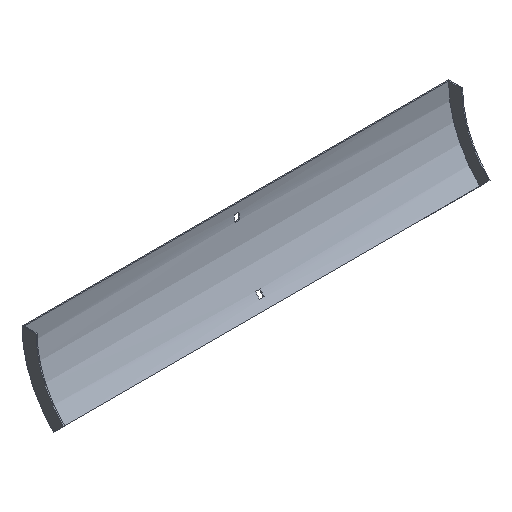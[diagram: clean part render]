
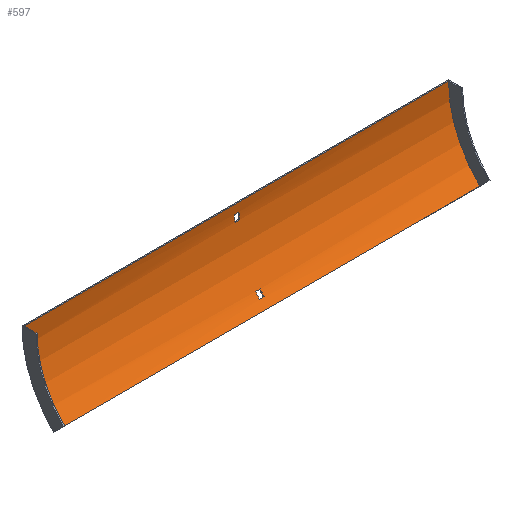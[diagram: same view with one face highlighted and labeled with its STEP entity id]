
A CAD part, isometric view. The second image highlights one B-rep face of the part: STEP entity #597.
In plain terms, the highlighted cylindrical face has radius 152 mm (diameter 304 mm), a partial arc.
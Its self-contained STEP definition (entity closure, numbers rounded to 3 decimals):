
#4 = DIRECTION ( 'NONE',  ( 0., 0., 1. ) ) ;
#9 = CARTESIAN_POINT ( 'NONE',  ( 303.5, -153.5, 0. ) ) ;
#10 = CARTESIAN_POINT ( 'NONE',  ( 3.25, -153.5, 0. ) ) ;
#11 = CIRCLE ( 'NONE', #357, 152. ) ;
#12 = ORIENTED_EDGE ( 'NONE', *, *, #260, .F. ) ;
#23 = CIRCLE ( 'NONE', #517, 152. ) ;
#29 = VERTEX_POINT ( 'NONE', #604 ) ;
#31 = VERTEX_POINT ( 'NONE', #314 ) ;
#32 = VECTOR ( 'NONE', #469, 1000. ) ;
#38 = CARTESIAN_POINT ( 'NONE',  ( 302., -1.5, 0. ) ) ;
#59 = ORIENTED_EDGE ( 'NONE', *, *, #194, .T. ) ;
#60 = DIRECTION ( 'NONE',  ( 0., 0., 1. ) ) ;
#61 = EDGE_CURVE ( 'NONE', #364, #243, #319, .T. ) ;
#66 = AXIS2_PLACEMENT_3D ( 'NONE', #10, #489, #197 ) ;
#69 = DIRECTION ( 'NONE',  ( 0., 0., 1. ) ) ;
#81 = ORIENTED_EDGE ( 'NONE', *, *, #151, .F. ) ;
#85 = CARTESIAN_POINT ( 'NONE',  ( -3.25, -2.958, -21. ) ) ;
#100 = DIRECTION ( 'NONE',  ( 1., 0., 0. ) ) ;
#104 = VECTOR ( 'NONE', #427, 1000. ) ;
#115 = ORIENTED_EDGE ( 'NONE', *, *, #480, .T. ) ;
#116 = VERTEX_POINT ( 'NONE', #516 ) ;
#120 = VERTEX_POINT ( 'NONE', #465 ) ;
#121 = VECTOR ( 'NONE', #458, 1000. ) ;
#127 = ORIENTED_EDGE ( 'NONE', *, *, #371, .F. ) ;
#135 = CARTESIAN_POINT ( 'NONE',  ( -302., -153.5, 0. ) ) ;
#141 = CARTESIAN_POINT ( 'NONE',  ( 303.5, -37.87, -98.659 ) ) ;
#144 = CARTESIAN_POINT ( 'NONE',  ( -3.25, -153.5, 0. ) ) ;
#151 = EDGE_CURVE ( 'NONE', #217, #347, #273, .T. ) ;
#157 = CARTESIAN_POINT ( 'NONE',  ( -3.25, -153.5, 0. ) ) ;
#159 = VECTOR ( 'NONE', #268, 1000. ) ;
#161 = EDGE_CURVE ( 'NONE', #347, #120, #23, .T. ) ;
#168 = EDGE_CURVE ( 'NONE', #29, #395, #522, .T. ) ;
#186 = LINE ( 'NONE', #38, #32 ) ;
#191 = CARTESIAN_POINT ( 'NONE',  ( 3.25, -1.974, -12. ) ) ;
#194 = EDGE_CURVE ( 'NONE', #395, #438, #381, .T. ) ;
#197 = DIRECTION ( 'NONE',  ( 0., 0., 1. ) ) ;
#217 = VERTEX_POINT ( 'NONE', #418 ) ;
#223 = ORIENTED_EDGE ( 'NONE', *, *, #301, .F. ) ;
#224 = VECTOR ( 'NONE', #271, 1000. ) ;
#237 = ORIENTED_EDGE ( 'NONE', *, *, #161, .F. ) ;
#240 = VECTOR ( 'NONE', #548, 1000. ) ;
#243 = VERTEX_POINT ( 'NONE', #191 ) ;
#260 = EDGE_CURVE ( 'NONE', #243, #116, #575, .T. ) ;
#267 = EDGE_CURVE ( 'NONE', #31, #29, #422, .T. ) ;
#268 = DIRECTION ( 'NONE',  ( 1., 0., 0. ) ) ;
#271 = DIRECTION ( 'NONE',  ( -1., 0., 0. ) ) ;
#273 = LINE ( 'NONE', #521, #121 ) ;
#280 = ORIENTED_EDGE ( 'NONE', *, *, #358, .T. ) ;
#284 = AXIS2_PLACEMENT_3D ( 'NONE', #9, #492, #60 ) ;
#285 = CYLINDRICAL_SURFACE ( 'NONE', #284, 152. ) ;
#290 = CARTESIAN_POINT ( 'NONE',  ( 302., -153.5, 0. ) ) ;
#297 = CARTESIAN_POINT ( 'NONE',  ( 303.5, -2.958, -21. ) ) ;
#301 = EDGE_CURVE ( 'NONE', #116, #452, #11, .T. ) ;
#310 = CARTESIAN_POINT ( 'NONE',  ( 3.25, -153.5, 0. ) ) ;
#314 = CARTESIAN_POINT ( 'NONE',  ( 3.25, -32.201, -91.6 ) ) ;
#319 = CIRCLE ( 'NONE', #468, 152. ) ;
#324 = CARTESIAN_POINT ( 'NONE',  ( 303.5, -1.974, -12. ) ) ;
#335 = ORIENTED_EDGE ( 'NONE', *, *, #61, .F. ) ;
#347 = VERTEX_POINT ( 'NONE', #592 ) ;
#349 = CARTESIAN_POINT ( 'NONE',  ( 3.25, -2.958, -21. ) ) ;
#351 = CARTESIAN_POINT ( 'NONE',  ( -3.25, -37.87, -98.659 ) ) ;
#357 = AXIS2_PLACEMENT_3D ( 'NONE', #157, #535, #69 ) ;
#358 = EDGE_CURVE ( 'NONE', #217, #576, #444, .T. ) ;
#364 = VERTEX_POINT ( 'NONE', #349 ) ;
#370 = CARTESIAN_POINT ( 'NONE',  ( 303.5, -32.201, -91.6 ) ) ;
#371 = EDGE_CURVE ( 'NONE', #452, #364, #453, .T. ) ;
#372 = DIRECTION ( 'NONE',  ( 0., 0., -1. ) ) ;
#381 = CIRCLE ( 'NONE', #475, 152. ) ;
#385 = EDGE_LOOP ( 'NONE', ( #533, #59, #587, #483 ) ) ;
#386 = CARTESIAN_POINT ( 'NONE',  ( 302., -1.5, 0. ) ) ;
#395 = VERTEX_POINT ( 'NONE', #351 ) ;
#398 = EDGE_LOOP ( 'NONE', ( #237, #81, #280, #115 ) ) ;
#399 = DIRECTION ( 'NONE',  ( 1., 0., 0. ) ) ;
#413 = DIRECTION ( 'NONE',  ( 0., 0., -1. ) ) ;
#418 = CARTESIAN_POINT ( 'NONE',  ( 302., -46.02, -107.48 ) ) ;
#422 = CIRCLE ( 'NONE', #66, 152. ) ;
#427 = DIRECTION ( 'NONE',  ( -1., 0., 0. ) ) ;
#428 = FACE_BOUND ( 'NONE', #554, .T. ) ;
#438 = VERTEX_POINT ( 'NONE', #588 ) ;
#439 = FACE_OUTER_BOUND ( 'NONE', #398, .T. ) ;
#444 = CIRCLE ( 'NONE', #525, 152. ) ;
#448 = DIRECTION ( 'NONE',  ( 0., 0., 1. ) ) ;
#452 = VERTEX_POINT ( 'NONE', #85 ) ;
#453 = LINE ( 'NONE', #297, #240 ) ;
#458 = DIRECTION ( 'NONE',  ( -1., 0., 0. ) ) ;
#465 = CARTESIAN_POINT ( 'NONE',  ( -302., -1.5, 0. ) ) ;
#467 = DIRECTION ( 'NONE',  ( 1., 0., 0. ) ) ;
#468 = AXIS2_PLACEMENT_3D ( 'NONE', #310, #561, #372 ) ;
#469 = DIRECTION ( 'NONE',  ( -1., 0., 0. ) ) ;
#475 = AXIS2_PLACEMENT_3D ( 'NONE', #144, #467, #413 ) ;
#480 = EDGE_CURVE ( 'NONE', #576, #120, #186, .T. ) ;
#481 = FACE_BOUND ( 'NONE', #385, .T. ) ;
#483 = ORIENTED_EDGE ( 'NONE', *, *, #267, .T. ) ;
#489 = DIRECTION ( 'NONE',  ( -1., 0., 0. ) ) ;
#490 = EDGE_CURVE ( 'NONE', #438, #31, #607, .T. ) ;
#492 = DIRECTION ( 'NONE',  ( -1., 0., 0. ) ) ;
#516 = CARTESIAN_POINT ( 'NONE',  ( -3.25, -1.974, -12. ) ) ;
#517 = AXIS2_PLACEMENT_3D ( 'NONE', #135, #100, #4 ) ;
#521 = CARTESIAN_POINT ( 'NONE',  ( 302., -46.02, -107.48 ) ) ;
#522 = LINE ( 'NONE', #141, #224 ) ;
#525 = AXIS2_PLACEMENT_3D ( 'NONE', #290, #399, #448 ) ;
#533 = ORIENTED_EDGE ( 'NONE', *, *, #168, .T. ) ;
#535 = DIRECTION ( 'NONE',  ( -1., 0., 0. ) ) ;
#548 = DIRECTION ( 'NONE',  ( 1., 0., 0. ) ) ;
#554 = EDGE_LOOP ( 'NONE', ( #223, #12, #335, #127 ) ) ;
#561 = DIRECTION ( 'NONE',  ( 1., 0., 0. ) ) ;
#575 = LINE ( 'NONE', #324, #104 ) ;
#576 = VERTEX_POINT ( 'NONE', #386 ) ;
#587 = ORIENTED_EDGE ( 'NONE', *, *, #490, .T. ) ;
#588 = CARTESIAN_POINT ( 'NONE',  ( -3.25, -32.201, -91.6 ) ) ;
#592 = CARTESIAN_POINT ( 'NONE',  ( -302., -46.02, -107.48 ) ) ;
#597 = ADVANCED_FACE ( 'NONE', ( #428, #439, #481 ), #285, .F. ) ;
#604 = CARTESIAN_POINT ( 'NONE',  ( 3.25, -37.87, -98.659 ) ) ;
#607 = LINE ( 'NONE', #370, #159 ) ;
